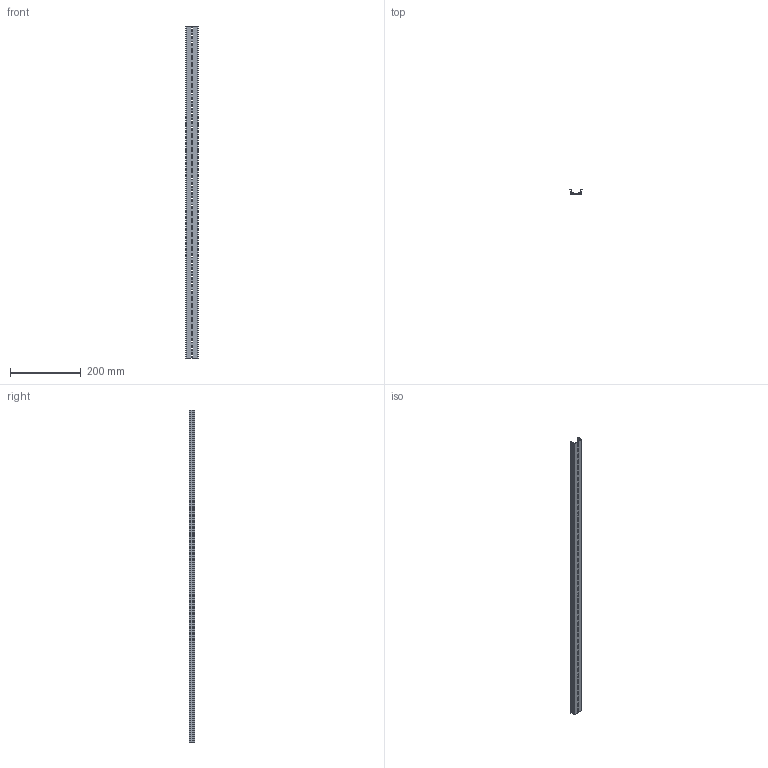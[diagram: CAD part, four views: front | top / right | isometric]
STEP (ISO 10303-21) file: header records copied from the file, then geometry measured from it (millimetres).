
FILE_DESCRIPTION(/* description */ (''),/* implementation_level */ '2;1');
FILE_NAME(/* name */ '22650-(TKB KD-47)HP 3D.stp',/* time_stamp */ '2024-12-05T14:28:05+09:00',/* author */ ('usercadg104'),/* organization */ (''),/* preprocessor_version */ 'ST-DEVELOPER v19.2',/* originating_system */ 'Autodesk Inventor 2023',/* authorisation */ '');
FILE_SCHEMA (('CONFIG_CONTROL_DESIGN'));
Length unit declared in the file: millimetre
Products named in the file (1): TKB KD-3(林)
Bounding box: 35 x 15 x 937 mm (x, y, z)
Volume: 109631 mm3; surface area: 126545.5 mm2
Topology: 1 solids, 1 shells, 228 faces, 678 edges, 452 vertices
Faces by surface type: plane 130, cylinder 98
Entity records: 7909 total; most frequent: CARTESIAN_POINT 1359, ORIENTED_EDGE 1356, DIRECTION 1332, EDGE_CURVE 678, LINE 482, VECTOR 482, VERTEX_POINT 452, AXIS2_PLACEMENT_3D 425
